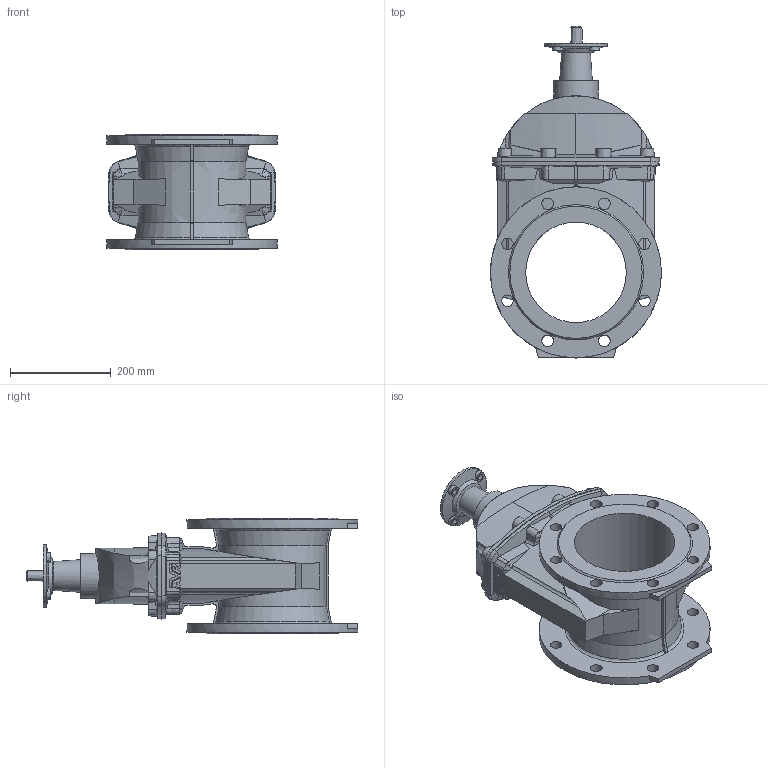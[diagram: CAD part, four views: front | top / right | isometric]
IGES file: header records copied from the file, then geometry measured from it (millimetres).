
Start section: SolidWorks IGES file using analytic representation for surfaces
Global section: file name: \\avksan2\techshare\PBM outline export from Enovia\O_15_42_DN200_X0XXX099_AA0.igs; native system: SolidWorks 2012; preprocessor: SolidWorks 2012; author: pbm; date: 170310.094244; units: inch
Bounding box: 340 x 660 x 230 mm (x, y, z)
Surface area: 852556.3 mm2 (no closed solid volume)
Topology: 0 solids, 0 shells, 391 faces, 2170 edges, 2085 vertices
Faces by surface type: revolution 220, bspline 171
